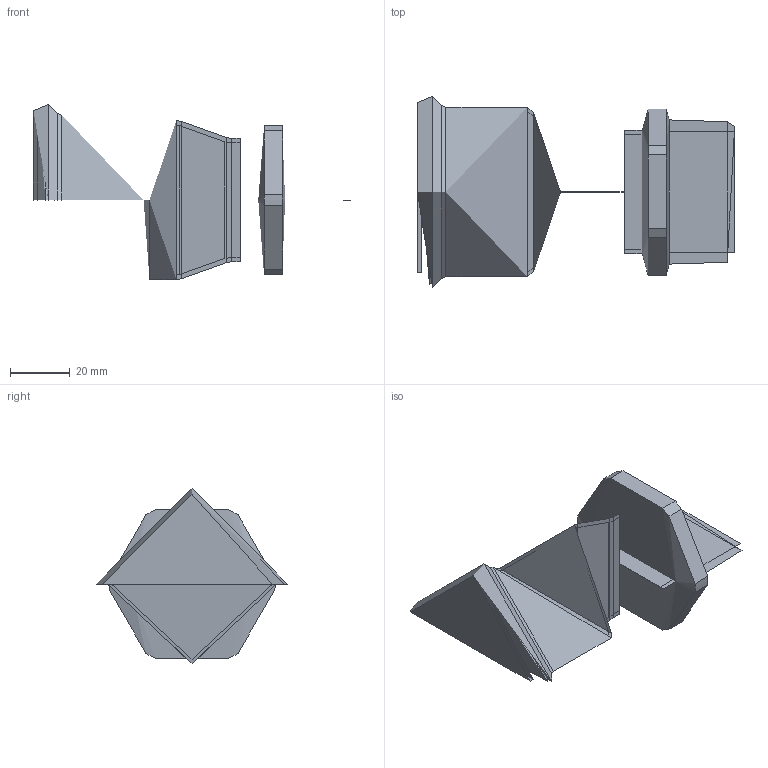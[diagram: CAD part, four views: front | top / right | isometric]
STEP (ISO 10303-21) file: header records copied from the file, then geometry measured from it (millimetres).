
FILE_DESCRIPTION(('FreeCAD Model'),'2;1');
FILE_NAME('Open CASCADE Shape Model','2025-10-20T15:01:26',('Author'),( ''),'Open CASCADE STEP processor 7.8','FreeCAD','Unknown');
FILE_SCHEMA(('AUTOMOTIVE_DESIGN { 1 0 10303 214 1 1 1 1 }'));
Length unit declared in the file: millimetre
Products named in the file (7): Unnamed160; COMPOUND; COMPOUND001; X-Achse; XY-Ebene; COMPOUND002; COMPOUND003
Assembly tree (18 placements, depth 3):
  Unnamed160
    COMPOUND
    COMPOUND001
      COMPOUND
    X-Achse  x6
    XY-Ebene  x6
    COMPOUND002
    COMPOUND003
      COMPOUND002
Bounding box: 106.5 x 64.24 x 58.82 mm (x, y, z)
Volume: 75101.4 mm3; surface area: 74814.5 mm2
Topology: 4 solids, 4 shells, 92 faces, 286 edges, 198 vertices
Faces by surface type: bspline 92
Entity records: 2280 total; most frequent: CARTESIAN_POINT 1338, ORIENTED_EDGE 280, EDGE_CURVE 140, VERTEX_POINT 99, FACE_BOUND 51, EDGE_LOOP 51, ADVANCED_FACE 46, DIRECTION 39
